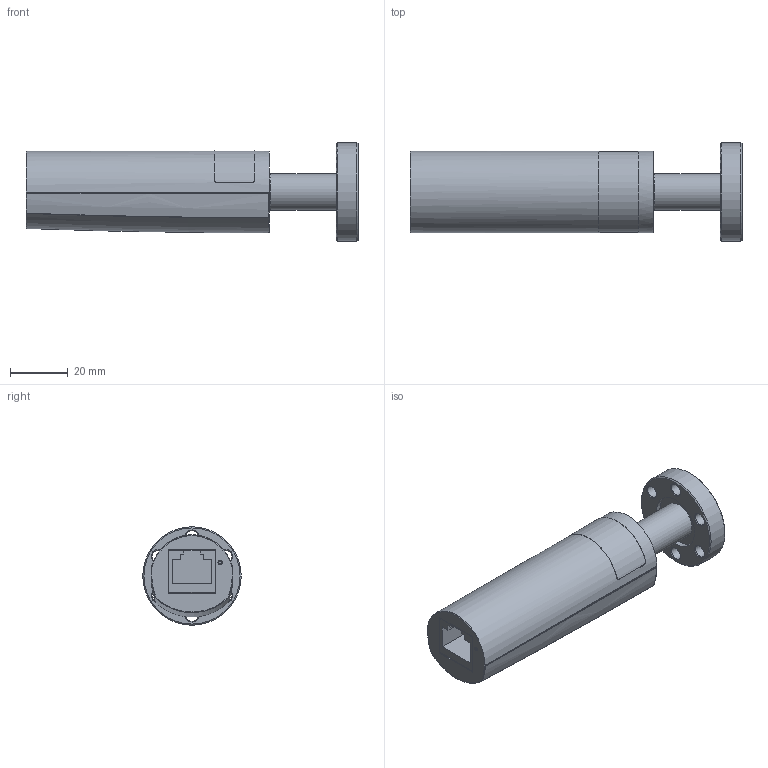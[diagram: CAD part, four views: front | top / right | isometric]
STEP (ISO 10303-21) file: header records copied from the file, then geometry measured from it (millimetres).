
FILE_DESCRIPTION(/* description */ (''),/* implementation_level */ '2;1');
FILE_NAME(/* name */ 'W:\308-750_Porter\CDG020D_16-CF_FCC.stp',/* time_stamp */ '2016-05-12T10:14:19+02:00',/* author */ ('BEM'),/* organization */ (''),/* preprocessor_version */ 'ST-DEVELOPER v15.2',/* originating_system */ 'Autodesk Inventor 2014',/* authorisation */ '');
FILE_SCHEMA (('AUTOMOTIVE_DESIGN { 1 0 10303 214 3 1 1 }'));
Length unit declared in the file: millimetre
Products named in the file (1): Bauteil14
Bounding box: 114.7 x 34 x 34 mm (x, y, z)
Volume: 31081.4 mm3; surface area: 31373.9 mm2
Topology: 1 solids, 2 shells, 416 faces, 1153 edges, 726 vertices
Faces by surface type: plane 249, cylinder 107, cone 27, torus 15, bspline 10, sphere 8
Full cylindrical faces by diameter (mm): 1.1 x1, 1.3 x2, 2.013 x2, 4.3 x6, 10.2 x2, 12.7 x1, 13.5 x1, 14 x1, 16 x1, 17.5 x1, 18.6 x1, 21.3 x1, 21.4 x1, 23 x1, 34 x1
Entity records: 13810 total; most frequent: CARTESIAN_POINT 3022, ORIENTED_EDGE 2154, DIRECTION 2060, EDGE_CURVE 1075, VERTEX_POINT 708, LINE 688, VECTOR 688, AXIS2_PLACEMENT_3D 686
